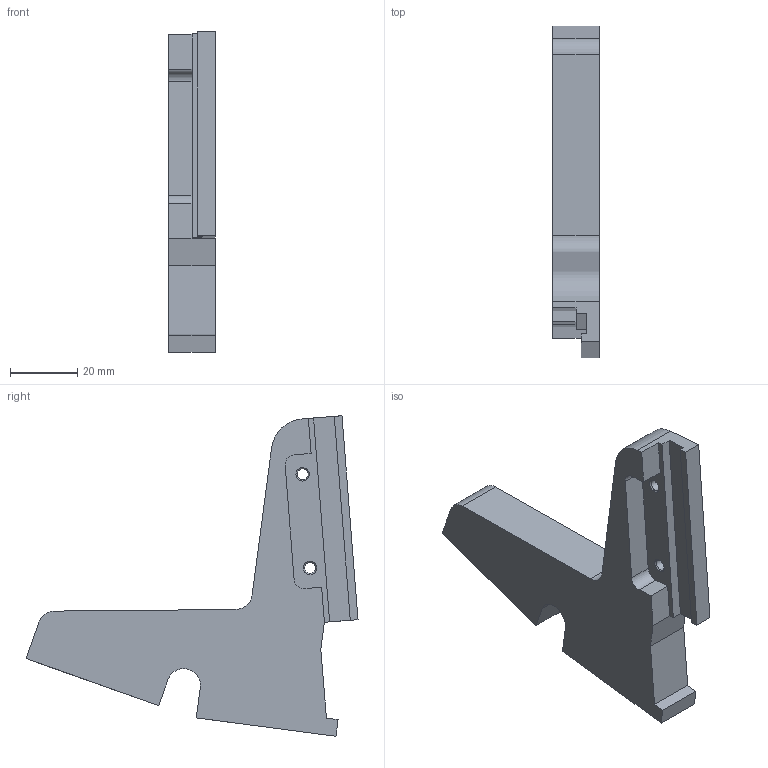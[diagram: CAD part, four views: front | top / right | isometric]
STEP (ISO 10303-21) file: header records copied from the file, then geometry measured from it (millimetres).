
FILE_DESCRIPTION(/* description */ (''),/* implementation_level */ '2;1');
FILE_NAME(/* name */ 'ASSY_STAVE_ONWHEELS_13.stp',/* time_stamp */ '2017-12-06T14:22:22+01:00',/* author */ (''),/* organization */ (''),/* preprocessor_version */ 'ST-DEVELOPER v16',/* originating_system */ 'SIEMENS PLM Software NX 10.0',/* authorisation */ '');
FILE_SCHEMA (('AP203_CONFIGURATION_CONTROLLED_3D_DESIGN_OF_MECHANICAL_PARTS_AND_ASSEMBLIES_MIM_LF { 1 0 10303 403 2 1 2}'));
Length unit declared in the file: millimetre
Products named in the file (1): turc1DB80072j4jz
Bounding box: 14 x 99.01 x 95.58 mm (x, y, z)
Volume: 45469.2 mm3; surface area: 13817.1 mm2
Topology: 1 solids, 1 shells, 59 faces, 168 edges, 113 vertices
Faces by surface type: plane 30, cylinder 16, cone 13
Full cylindrical faces by diameter (mm): 2.5 x4, 3.3 x2, 3.8 x1, 4 x1
Entity records: 1806 total; most frequent: DIRECTION 309, CARTESIAN_POINT 293, ORIENTED_EDGE 250, EDGE_CURVE 125, AXIS2_PLACEMENT_3D 112, VERTEX_POINT 96, EDGE_LOOP 86, LINE 85
